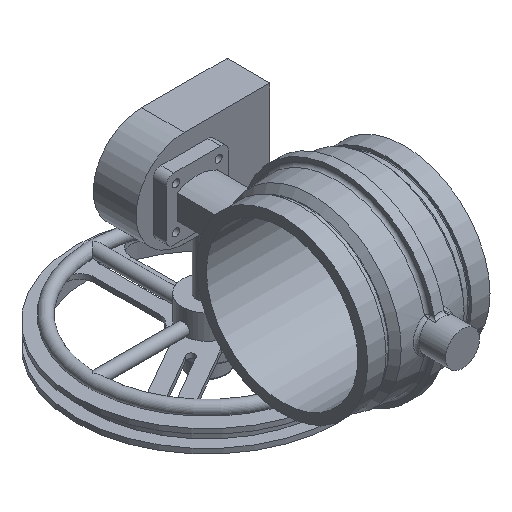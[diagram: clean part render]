
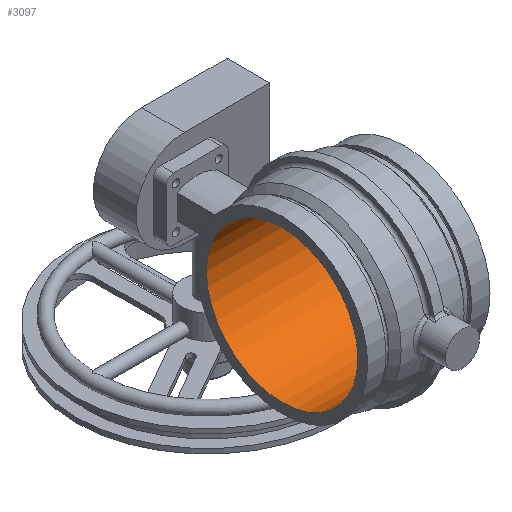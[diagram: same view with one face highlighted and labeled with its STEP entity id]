
A CAD part, isometric view. The second image highlights one B-rep face of the part: STEP entity #3097.
In plain terms, the highlighted cylindrical face has radius 157.29 mm (diameter 314.579 mm), a full revolution.
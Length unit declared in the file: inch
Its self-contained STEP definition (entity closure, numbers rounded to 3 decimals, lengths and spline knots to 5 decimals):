
#341=CIRCLE('',#3474,6.1925);
#342=CIRCLE('',#3475,6.1925);
#343=CIRCLE('',#3477,6.1925);
#344=CIRCLE('',#3478,6.1925);
#506=FACE_OUTER_BOUND('',#684,.T.);
#684=EDGE_LOOP('',(#2679,#2680,#2681,#2682,#2683,#2684));
#918=LINE('',#6275,#1067);
#1067=VECTOR('',#4354,6.1925);
#1357=VERTEX_POINT('',#6269);
#1358=VERTEX_POINT('',#6270);
#1359=VERTEX_POINT('',#6274);
#1360=VERTEX_POINT('',#6276);
#1801=EDGE_CURVE('',#1357,#1358,#341,.T.);
#1802=EDGE_CURVE('',#1358,#1357,#342,.T.);
#1803=EDGE_CURVE('',#1358,#1359,#918,.T.);
#1804=EDGE_CURVE('',#1360,#1359,#343,.T.);
#1805=EDGE_CURVE('',#1359,#1360,#344,.T.);
#2679=ORIENTED_EDGE('',*,*,#1801,.T.);
#2680=ORIENTED_EDGE('',*,*,#1803,.T.);
#2681=ORIENTED_EDGE('',*,*,#1804,.F.);
#2682=ORIENTED_EDGE('',*,*,#1805,.F.);
#2683=ORIENTED_EDGE('',*,*,#1803,.F.);
#2684=ORIENTED_EDGE('',*,*,#1802,.T.);
#2788=CYLINDRICAL_SURFACE('',#3476,6.1925);
#3097=ADVANCED_FACE('',(#506),#2788,.F.);
#3474=AXIS2_PLACEMENT_3D('',#6271,#4348,#4349);
#3475=AXIS2_PLACEMENT_3D('',#6272,#4350,#4351);
#3476=AXIS2_PLACEMENT_3D('',#6273,#4352,#4353);
#3477=AXIS2_PLACEMENT_3D('',#6277,#4355,#4356);
#3478=AXIS2_PLACEMENT_3D('',#6278,#4357,#4358);
#4348=DIRECTION('center_axis',(1.,0.,0.));
#4349=DIRECTION('ref_axis',(0.,1.,0.));
#4350=DIRECTION('center_axis',(1.,0.,0.));
#4351=DIRECTION('ref_axis',(0.,1.,0.));
#4352=DIRECTION('center_axis',(1.,0.,0.));
#4353=DIRECTION('ref_axis',(0.,1.,0.));
#4354=DIRECTION('',(-1.,0.,0.));
#4355=DIRECTION('center_axis',(1.,0.,0.));
#4356=DIRECTION('ref_axis',(0.,1.,0.));
#4357=DIRECTION('center_axis',(1.,0.,0.));
#4358=DIRECTION('ref_axis',(0.,1.,0.));
#6269=CARTESIAN_POINT('',(5.,6.1925,0.));
#6270=CARTESIAN_POINT('',(5.,-6.1925,0.));
#6271=CARTESIAN_POINT('Origin',(5.,0.,0.));
#6272=CARTESIAN_POINT('Origin',(5.,0.,0.));
#6273=CARTESIAN_POINT('Origin',(0.,0.,0.));
#6274=CARTESIAN_POINT('',(-5.,-6.1925,0.));
#6275=CARTESIAN_POINT('',(0.,-6.1925,0.));
#6276=CARTESIAN_POINT('',(-5.,6.1925,0.));
#6277=CARTESIAN_POINT('Origin',(-5.,0.,0.));
#6278=CARTESIAN_POINT('Origin',(-5.,0.,0.));
